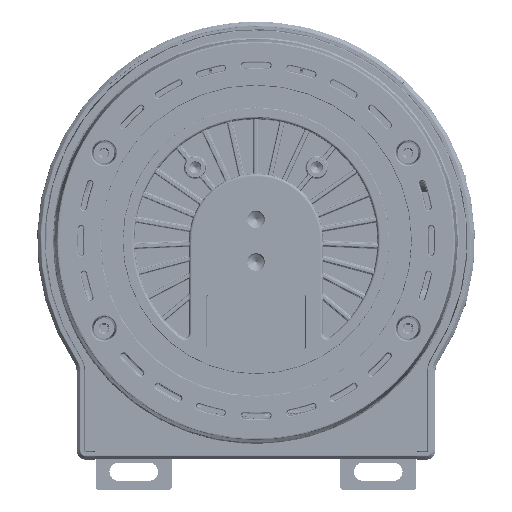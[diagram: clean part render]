
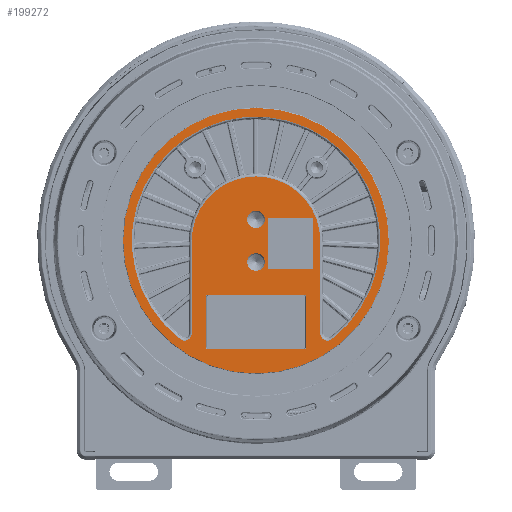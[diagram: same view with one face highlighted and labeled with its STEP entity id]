
A CAD part, front view. The second image highlights one B-rep face of the part: STEP entity #199272.
In plain terms, the highlighted planar face has unit normal (0, -1, 0).
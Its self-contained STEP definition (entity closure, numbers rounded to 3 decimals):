
#2055=FACE_BOUND('',#63721,.T.);
#2056=FACE_BOUND('',#63722,.T.);
#2057=FACE_BOUND('',#63723,.T.);
#2058=FACE_BOUND('',#63724,.T.);
#2059=FACE_BOUND('',#63725,.T.);
#10144=LINE('',#344605,#28784);
#10145=LINE('',#344612,#28785);
#10146=LINE('',#344617,#28786);
#10147=LINE('',#344621,#28787);
#10148=LINE('',#344625,#28788);
#10149=LINE('',#344628,#28789);
#10150=LINE('',#344631,#28790);
#10151=LINE('',#344633,#28791);
#10152=LINE('',#344635,#28792);
#10153=LINE('',#344636,#28793);
#28784=VECTOR('',#240619,30.496);
#28785=VECTOR('',#240626,30.496);
#28786=VECTOR('',#240629,16.5);
#28787=VECTOR('',#240632,31.5);
#28788=VECTOR('',#240635,16.5);
#28789=VECTOR('',#240638,31.5);
#28790=VECTOR('',#240639,14.8);
#28791=VECTOR('',#240640,16.8);
#28792=VECTOR('',#240641,14.8);
#28793=VECTOR('',#240642,16.8);
#44814=PLANE('',#212522);
#52374=FACE_OUTER_BOUND('',#63720,.T.);
#63720=EDGE_LOOP('',(#149588));
#63721=EDGE_LOOP('',(#149589));
#63722=EDGE_LOOP('',(#149590));
#63723=EDGE_LOOP('',(#149591,#149592,#149593,#149594,#149595,#149596));
#63724=EDGE_LOOP('',(#149597,#149598,#149599,#149600,#149601,#149602,#149603,
#149604));
#63725=EDGE_LOOP('',(#149605,#149606,#149607,#149608));
#75521=CIRCLE('',#212523,43.684);
#75522=CIRCLE('',#212524,2.9);
#75523=CIRCLE('',#212525,2.9);
#75524=CIRCLE('',#212526,21.136);
#75525=CIRCLE('',#212527,2.364);
#75526=CIRCLE('',#212528,40.864);
#75527=CIRCLE('',#212529,2.364);
#75528=CIRCLE('',#212530,0.727);
#75529=CIRCLE('',#212531,0.727);
#75530=CIRCLE('',#212532,0.727);
#75531=CIRCLE('',#212533,0.727);
#89183=VERTEX_POINT('',#344595);
#89184=VERTEX_POINT('',#344597);
#89185=VERTEX_POINT('',#344599);
#89186=VERTEX_POINT('',#344601);
#89187=VERTEX_POINT('',#344602);
#89188=VERTEX_POINT('',#344604);
#89189=VERTEX_POINT('',#344606);
#89190=VERTEX_POINT('',#344608);
#89191=VERTEX_POINT('',#344610);
#89192=VERTEX_POINT('',#344613);
#89193=VERTEX_POINT('',#344614);
#89194=VERTEX_POINT('',#344616);
#89195=VERTEX_POINT('',#344618);
#89196=VERTEX_POINT('',#344620);
#89197=VERTEX_POINT('',#344622);
#89198=VERTEX_POINT('',#344624);
#89199=VERTEX_POINT('',#344626);
#89200=VERTEX_POINT('',#344629);
#89201=VERTEX_POINT('',#344630);
#89202=VERTEX_POINT('',#344632);
#89203=VERTEX_POINT('',#344634);
#111479=EDGE_CURVE('',#89183,#89183,#75521,.T.);
#111480=EDGE_CURVE('',#89184,#89184,#75522,.T.);
#111481=EDGE_CURVE('',#89185,#89185,#75523,.T.);
#111482=EDGE_CURVE('',#89186,#89187,#75524,.T.);
#111483=EDGE_CURVE('',#89187,#89188,#10144,.T.);
#111484=EDGE_CURVE('',#89189,#89188,#75525,.T.);
#111485=EDGE_CURVE('',#89189,#89190,#75526,.T.);
#111486=EDGE_CURVE('',#89191,#89190,#75527,.T.);
#111487=EDGE_CURVE('',#89191,#89186,#10145,.T.);
#111488=EDGE_CURVE('',#89192,#89193,#75528,.T.);
#111489=EDGE_CURVE('',#89193,#89194,#10146,.T.);
#111490=EDGE_CURVE('',#89194,#89195,#75529,.T.);
#111491=EDGE_CURVE('',#89195,#89196,#10147,.T.);
#111492=EDGE_CURVE('',#89196,#89197,#75530,.T.);
#111493=EDGE_CURVE('',#89197,#89198,#10148,.T.);
#111494=EDGE_CURVE('',#89198,#89199,#75531,.T.);
#111495=EDGE_CURVE('',#89199,#89192,#10149,.T.);
#111496=EDGE_CURVE('',#89200,#89201,#10150,.T.);
#111497=EDGE_CURVE('',#89202,#89200,#10151,.T.);
#111498=EDGE_CURVE('',#89203,#89202,#10152,.T.);
#111499=EDGE_CURVE('',#89201,#89203,#10153,.T.);
#149588=ORIENTED_EDGE('',*,*,#111479,.T.);
#149589=ORIENTED_EDGE('',*,*,#111480,.F.);
#149590=ORIENTED_EDGE('',*,*,#111481,.F.);
#149591=ORIENTED_EDGE('',*,*,#111482,.T.);
#149592=ORIENTED_EDGE('',*,*,#111483,.T.);
#149593=ORIENTED_EDGE('',*,*,#111484,.F.);
#149594=ORIENTED_EDGE('',*,*,#111485,.T.);
#149595=ORIENTED_EDGE('',*,*,#111486,.F.);
#149596=ORIENTED_EDGE('',*,*,#111487,.T.);
#149597=ORIENTED_EDGE('',*,*,#111488,.T.);
#149598=ORIENTED_EDGE('',*,*,#111489,.T.);
#149599=ORIENTED_EDGE('',*,*,#111490,.T.);
#149600=ORIENTED_EDGE('',*,*,#111491,.T.);
#149601=ORIENTED_EDGE('',*,*,#111492,.T.);
#149602=ORIENTED_EDGE('',*,*,#111493,.T.);
#149603=ORIENTED_EDGE('',*,*,#111494,.T.);
#149604=ORIENTED_EDGE('',*,*,#111495,.T.);
#149605=ORIENTED_EDGE('',*,*,#111496,.F.);
#149606=ORIENTED_EDGE('',*,*,#111497,.F.);
#149607=ORIENTED_EDGE('',*,*,#111498,.F.);
#149608=ORIENTED_EDGE('',*,*,#111499,.F.);
#199272=ADVANCED_FACE('',(#52374,#2055,#2056,#2057,#2058,#2059),#44814,
 .F.);
#212522=AXIS2_PLACEMENT_3D('',#344594,#240609,#240610);
#212523=AXIS2_PLACEMENT_3D('',#344596,#240611,#240612);
#212524=AXIS2_PLACEMENT_3D('',#344598,#240613,#240614);
#212525=AXIS2_PLACEMENT_3D('',#344600,#240615,#240616);
#212526=AXIS2_PLACEMENT_3D('',#344603,#240617,#240618);
#212527=AXIS2_PLACEMENT_3D('',#344607,#240620,#240621);
#212528=AXIS2_PLACEMENT_3D('',#344609,#240622,#240623);
#212529=AXIS2_PLACEMENT_3D('',#344611,#240624,#240625);
#212530=AXIS2_PLACEMENT_3D('',#344615,#240627,#240628);
#212531=AXIS2_PLACEMENT_3D('',#344619,#240630,#240631);
#212532=AXIS2_PLACEMENT_3D('',#344623,#240633,#240634);
#212533=AXIS2_PLACEMENT_3D('',#344627,#240636,#240637);
#240609=DIRECTION('center_axis',(0.,1.,0.));
#240610=DIRECTION('ref_axis',(1.,0.,0.));
#240611=DIRECTION('center_axis',(0.,-1.,0.));
#240612=DIRECTION('ref_axis',(-1.,0.,0.));
#240613=DIRECTION('center_axis',(0.,-1.,0.));
#240614=DIRECTION('ref_axis',(-1.,0.,0.));
#240615=DIRECTION('center_axis',(0.,-1.,0.));
#240616=DIRECTION('ref_axis',(-1.,0.,0.));
#240617=DIRECTION('center_axis',(0.,-1.,0.));
#240618=DIRECTION('ref_axis',(1.,0.,0.));
#240619=DIRECTION('',(0.,0.,-1.));
#240620=DIRECTION('center_axis',(0.,-1.,0.));
#240621=DIRECTION('ref_axis',(-0.61,0.,-0.792));
#240622=DIRECTION('center_axis',(0.,1.,0.));
#240623=DIRECTION('ref_axis',(-0.61,0.,-0.792));
#240624=DIRECTION('center_axis',(0.,-1.,0.));
#240625=DIRECTION('ref_axis',(-1.,0.,0.));
#240626=DIRECTION('',(0.,0.,1.));
#240627=DIRECTION('center_axis',(0.,1.,0.));
#240628=DIRECTION('ref_axis',(0.,0.,1.));
#240629=DIRECTION('',(0.,0.,-1.));
#240630=DIRECTION('center_axis',(0.,1.,0.));
#240631=DIRECTION('ref_axis',(1.,0.,0.));
#240632=DIRECTION('',(-1.,0.,0.));
#240633=DIRECTION('center_axis',(0.,1.,0.));
#240634=DIRECTION('ref_axis',(0.,0.,-1.));
#240635=DIRECTION('',(0.,0.,1.));
#240636=DIRECTION('center_axis',(0.,1.,0.));
#240637=DIRECTION('ref_axis',(-1.,0.,0.));
#240638=DIRECTION('',(1.,0.,0.));
#240639=DIRECTION('',(-1.,0.,0.));
#240640=DIRECTION('',(0.,0.,1.));
#240641=DIRECTION('',(1.,0.,0.));
#240642=DIRECTION('',(0.,0.,-1.));
#344594=CARTESIAN_POINT('Origin',(0.,-130.,0.));
#344595=CARTESIAN_POINT('',(43.683,-130.,-0.316));
#344596=CARTESIAN_POINT('Origin',(0.,-130.,0.));
#344597=CARTESIAN_POINT('',(2.9,-130.,-7.));
#344598=CARTESIAN_POINT('Origin',(0.,-130.,-7.));
#344599=CARTESIAN_POINT('',(2.9,-130.,7.));
#344600=CARTESIAN_POINT('Origin',(0.,-130.,7.));
#344601=CARTESIAN_POINT('',(21.136,-130.,0.));
#344602=CARTESIAN_POINT('',(-21.136,-130.,0.));
#344603=CARTESIAN_POINT('Origin',(0.,-130.,0.));
#344604=CARTESIAN_POINT('',(-21.136,-130.,-30.496));
#344605=CARTESIAN_POINT('',(-21.136,-130.,0.));
#344606=CARTESIAN_POINT('',(-24.943,-130.,-32.369));
#344607=CARTESIAN_POINT('Origin',(-23.5,-130.,-30.496));
#344608=CARTESIAN_POINT('',(24.943,-130.,-32.369));
#344609=CARTESIAN_POINT('Origin',(0.,-130.,0.));
#344610=CARTESIAN_POINT('',(21.136,-130.,-30.496));
#344611=CARTESIAN_POINT('Origin',(23.5,-130.,-30.496));
#344612=CARTESIAN_POINT('',(21.136,-130.,-30.496));
#344613=CARTESIAN_POINT('',(15.75,-130.,-17.773));
#344614=CARTESIAN_POINT('',(16.477,-130.,-18.5));
#344615=CARTESIAN_POINT('Origin',(15.75,-130.,-18.5));
#344616=CARTESIAN_POINT('',(16.477,-130.,-35.));
#344617=CARTESIAN_POINT('',(16.477,-130.,-18.5));
#344618=CARTESIAN_POINT('',(15.75,-130.,-35.727));
#344619=CARTESIAN_POINT('Origin',(15.75,-130.,-35.));
#344620=CARTESIAN_POINT('',(-15.75,-130.,-35.727));
#344621=CARTESIAN_POINT('',(15.75,-130.,-35.727));
#344622=CARTESIAN_POINT('',(-16.477,-130.,-35.));
#344623=CARTESIAN_POINT('Origin',(-15.75,-130.,-35.));
#344624=CARTESIAN_POINT('',(-16.477,-130.,-18.5));
#344625=CARTESIAN_POINT('',(-16.477,-130.,-35.));
#344626=CARTESIAN_POINT('',(-15.75,-130.,-17.773));
#344627=CARTESIAN_POINT('Origin',(-15.75,-130.,-18.5));
#344628=CARTESIAN_POINT('',(-15.75,-130.,-17.773));
#344629=CARTESIAN_POINT('',(18.9,-130.,7.4));
#344630=CARTESIAN_POINT('',(4.1,-130.,7.4));
#344631=CARTESIAN_POINT('',(18.9,-130.,7.4));
#344632=CARTESIAN_POINT('',(18.9,-130.,-9.4));
#344633=CARTESIAN_POINT('',(18.9,-130.,-9.4));
#344634=CARTESIAN_POINT('',(4.1,-130.,-9.4));
#344635=CARTESIAN_POINT('',(4.1,-130.,-9.4));
#344636=CARTESIAN_POINT('',(4.1,-130.,7.4));
